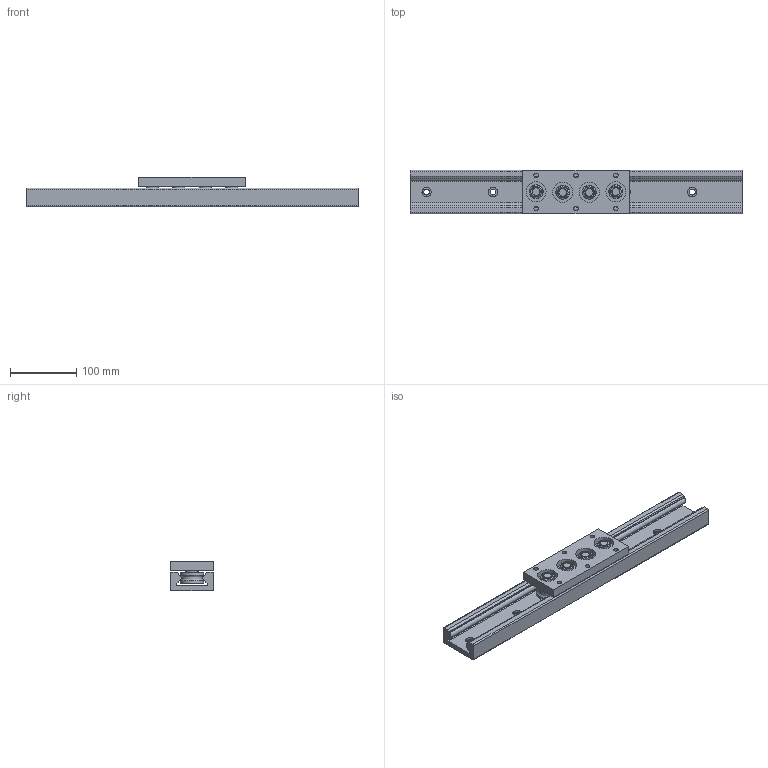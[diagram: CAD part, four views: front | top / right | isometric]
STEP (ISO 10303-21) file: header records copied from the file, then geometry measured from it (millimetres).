
FILE_DESCRIPTION((''),'2;1');
FILE_NAME('C:\Documents and Settings\土屋\My Documents\土屋移動用フォルダ\製品 (図面)\LSダウンロード用図面\LSI6545.stp','2017-01-20T14:35:41',('y'),(''),'Autodesk Inventor 11','Autodesk Inventor 11','');
FILE_SCHEMA(('AUTOMOTIVE_DESIGN { 1 0 10303 214 1 1 1 1 }'));
Length unit declared in the file: millimetre
Products named in the file (3): LSI6545; LSI6545レール; LSI6545キャリッジ
Assembly tree (2 placements, depth 2):
  LSI6545
    LSI6545レール
    LSI6545キャリッジ
Bounding box: 500 x 65 x 45 mm (x, y, z)
Volume: 711593.2 mm3; surface area: 170039.1 mm2
Topology: 2 solids, 2 shells, 153 faces, 349 edges, 229 vertices
Faces by surface type: plane 74, cylinder 42, bspline 25, cone 12
Full cylindrical faces by diameter (mm): 12 x4, 18 x4, 21 x4, 30 x4, 35 x8
Entity records: 4546 total; most frequent: CARTESIAN_POINT 1365, DIRECTION 630, ORIENTED_EDGE 568, EDGE_CURVE 284, AXIS2_PLACEMENT_3D 261, EDGE_LOOP 260, VERTEX_POINT 220, FACE_OUTER_BOUND 153
